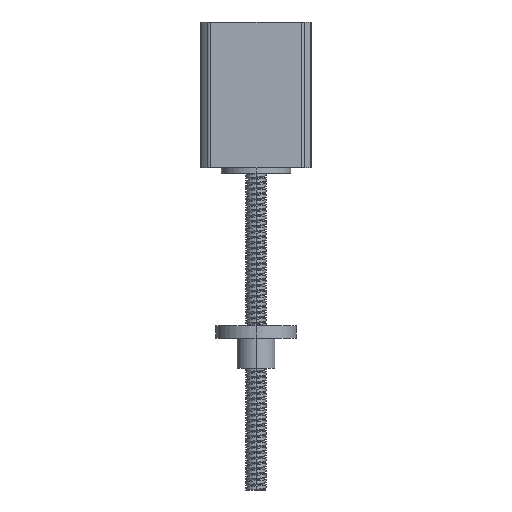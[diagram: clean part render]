
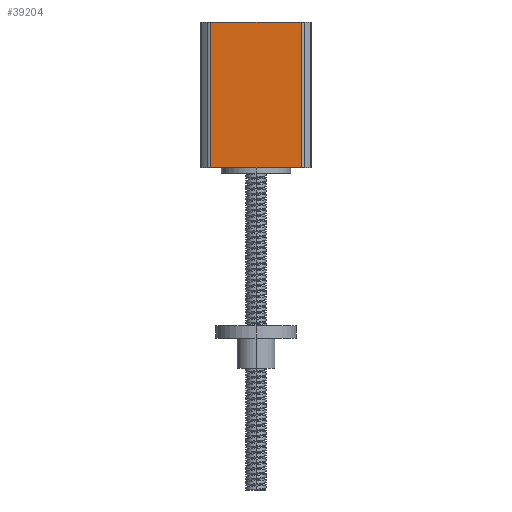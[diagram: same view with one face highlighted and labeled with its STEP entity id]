
A CAD part, left-side view. The second image highlights one B-rep face of the part: STEP entity #39204.
In plain terms, the highlighted planar face has unit normal (-1, 0, 0).
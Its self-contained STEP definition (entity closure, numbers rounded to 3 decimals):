
#21147 = PLANE('',#21148);
#21148 = AXIS2_PLACEMENT_3D('',#21149,#21150,#21151);
#21149 = CARTESIAN_POINT('',(0.,0.,47.8));
#21150 = DIRECTION('',(0.,0.,1.));
#21151 = DIRECTION('',(1.,0.,0.));
#22291 = PLANE('',#22292);
#22292 = AXIS2_PLACEMENT_3D('',#22293,#22294,#22295);
#22293 = CARTESIAN_POINT('',(0.,0.,1.8));
#22294 = DIRECTION('',(0.,0.,1.));
#22295 = DIRECTION('',(1.,0.,0.));
#37218 = VERTEX_POINT('',#37219);
#37219 = CARTESIAN_POINT('',(-17.5,-14.361,1.8));
#37234 = CYLINDRICAL_SURFACE('',#37235,1.5);
#37235 = AXIS2_PLACEMENT_3D('',#37236,#37237,#37238);
#37236 = CARTESIAN_POINT('',(-16.,-14.361,47.8));
#37237 = DIRECTION('',(0.,0.,-1.));
#37238 = DIRECTION('',(-1.,0.,0.));
#37268 = EDGE_CURVE('',#37269,#37218,#37271,.T.);
#37269 = VERTEX_POINT('',#37270);
#37270 = CARTESIAN_POINT('',(-17.5,14.361,1.8));
#37271 = SURFACE_CURVE('',#37272,(#37276,#37283),.PCURVE_S1.);
#37272 = LINE('',#37273,#37274);
#37273 = CARTESIAN_POINT('',(-17.5,14.361,1.8));
#37274 = VECTOR('',#37275,1.);
#37275 = DIRECTION('',(0.,-1.,0.));
#37276 = PCURVE('',#22291,#37277);
#37277 = DEFINITIONAL_REPRESENTATION('',(#37278),#37282);
#37278 = LINE('',#37279,#37280);
#37279 = CARTESIAN_POINT('',(-17.5,14.361));
#37280 = VECTOR('',#37281,1.);
#37281 = DIRECTION('',(0.,-1.));
#37282 = ( GEOMETRIC_REPRESENTATION_CONTEXT(2) 
PARAMETRIC_REPRESENTATION_CONTEXT() REPRESENTATION_CONTEXT('2D SPACE',''
  ) );
#37283 = PCURVE('',#37284,#37289);
#37284 = PLANE('',#37285);
#37285 = AXIS2_PLACEMENT_3D('',#37286,#37287,#37288);
#37286 = CARTESIAN_POINT('',(-17.5,14.361,47.8));
#37287 = DIRECTION('',(1.,0.,0.));
#37288 = DIRECTION('',(0.,1.,0.));
#37289 = DEFINITIONAL_REPRESENTATION('',(#37290),#37294);
#37290 = LINE('',#37291,#37292);
#37291 = CARTESIAN_POINT('',(0.,-46.));
#37292 = VECTOR('',#37293,1.);
#37293 = DIRECTION('',(-1.,0.));
#37294 = ( GEOMETRIC_REPRESENTATION_CONTEXT(2) 
PARAMETRIC_REPRESENTATION_CONTEXT() REPRESENTATION_CONTEXT('2D SPACE',''
  ) );
#37313 = CYLINDRICAL_SURFACE('',#37314,1.5);
#37314 = AXIS2_PLACEMENT_3D('',#37315,#37316,#37317);
#37315 = CARTESIAN_POINT('',(-16.,14.361,47.8));
#37316 = DIRECTION('',(0.,0.,-1.));
#37317 = DIRECTION('',(-1.,0.,0.));
#39115 = EDGE_CURVE('',#39116,#37269,#39118,.T.);
#39116 = VERTEX_POINT('',#39117);
#39117 = CARTESIAN_POINT('',(-17.5,14.361,47.8));
#39118 = SURFACE_CURVE('',#39119,(#39123,#39152),.PCURVE_S1.);
#39119 = LINE('',#39120,#39121);
#39120 = CARTESIAN_POINT('',(-17.5,14.361,47.8));
#39121 = VECTOR('',#39122,1.);
#39122 = DIRECTION('',(0.,0.,-1.));
#39123 = PCURVE('',#37313,#39124);
#39124 = DEFINITIONAL_REPRESENTATION('',(#39125),#39151);
#39125 = B_SPLINE_CURVE_WITH_KNOTS('',3,(#39126,#39127,#39128,#39129,
    #39130,#39131,#39132,#39133,#39134,#39135,#39136,#39137,#39138,
    #39139,#39140,#39141,#39142,#39143,#39144,#39145,#39146,#39147,
    #39148,#39149,#39150),.UNSPECIFIED.,.F.,.F.,(4,1,1,1,1,1,1,1,1,1,1,1
    ,1,1,1,1,1,1,1,1,1,1,4),(0.,2.091,4.182,
    6.273,8.364,10.455,12.545,
    14.636,16.727,18.818,20.909,23.,
    25.091,27.182,29.273,31.364,
    33.455,35.545,37.636,39.727,
    41.818,43.909,46.),.QUASI_UNIFORM_KNOTS.);
#39126 = CARTESIAN_POINT('',(0.,0.));
#39127 = CARTESIAN_POINT('',(0.,0.697));
#39128 = CARTESIAN_POINT('',(0.,2.091));
#39129 = CARTESIAN_POINT('',(0.,4.182));
#39130 = CARTESIAN_POINT('',(0.,6.273));
#39131 = CARTESIAN_POINT('',(0.,8.364));
#39132 = CARTESIAN_POINT('',(0.,10.455));
#39133 = CARTESIAN_POINT('',(0.,12.545));
#39134 = CARTESIAN_POINT('',(0.,14.636));
#39135 = CARTESIAN_POINT('',(0.,16.727));
#39136 = CARTESIAN_POINT('',(0.,18.818));
#39137 = CARTESIAN_POINT('',(0.,20.909));
#39138 = CARTESIAN_POINT('',(0.,23.));
#39139 = CARTESIAN_POINT('',(0.,25.091));
#39140 = CARTESIAN_POINT('',(0.,27.182));
#39141 = CARTESIAN_POINT('',(0.,29.273));
#39142 = CARTESIAN_POINT('',(0.,31.364));
#39143 = CARTESIAN_POINT('',(0.,33.455));
#39144 = CARTESIAN_POINT('',(0.,35.545));
#39145 = CARTESIAN_POINT('',(0.,37.636));
#39146 = CARTESIAN_POINT('',(0.,39.727));
#39147 = CARTESIAN_POINT('',(0.,41.818));
#39148 = CARTESIAN_POINT('',(0.,43.909));
#39149 = CARTESIAN_POINT('',(0.,45.303));
#39150 = CARTESIAN_POINT('',(0.,46.));
#39151 = ( GEOMETRIC_REPRESENTATION_CONTEXT(2) 
PARAMETRIC_REPRESENTATION_CONTEXT() REPRESENTATION_CONTEXT('2D SPACE',''
  ) );
#39152 = PCURVE('',#37284,#39153);
#39153 = DEFINITIONAL_REPRESENTATION('',(#39154),#39158);
#39154 = LINE('',#39155,#39156);
#39155 = CARTESIAN_POINT('',(0.,0.));
#39156 = VECTOR('',#39157,1.);
#39157 = DIRECTION('',(0.,-1.));
#39158 = ( GEOMETRIC_REPRESENTATION_CONTEXT(2) 
PARAMETRIC_REPRESENTATION_CONTEXT() REPRESENTATION_CONTEXT('2D SPACE',''
  ) );
#39204 = ADVANCED_FACE('',(#39205),#37284,.F.);
#39205 = FACE_BOUND('',#39206,.T.);
#39206 = EDGE_LOOP('',(#39207,#39208,#39253,#39274));
#39207 = ORIENTED_EDGE('',*,*,#37268,.T.);
#39208 = ORIENTED_EDGE('',*,*,#39209,.F.);
#39209 = EDGE_CURVE('',#39210,#37218,#39212,.T.);
#39210 = VERTEX_POINT('',#39211);
#39211 = CARTESIAN_POINT('',(-17.5,-14.361,47.8));
#39212 = SURFACE_CURVE('',#39213,(#39217,#39224),.PCURVE_S1.);
#39213 = LINE('',#39214,#39215);
#39214 = CARTESIAN_POINT('',(-17.5,-14.361,47.8));
#39215 = VECTOR('',#39216,1.);
#39216 = DIRECTION('',(0.,0.,-1.));
#39217 = PCURVE('',#37284,#39218);
#39218 = DEFINITIONAL_REPRESENTATION('',(#39219),#39223);
#39219 = LINE('',#39220,#39221);
#39220 = CARTESIAN_POINT('',(-28.723,0.));
#39221 = VECTOR('',#39222,1.);
#39222 = DIRECTION('',(0.,-1.));
#39223 = ( GEOMETRIC_REPRESENTATION_CONTEXT(2) 
PARAMETRIC_REPRESENTATION_CONTEXT() REPRESENTATION_CONTEXT('2D SPACE',''
  ) );
#39224 = PCURVE('',#37234,#39225);
#39225 = DEFINITIONAL_REPRESENTATION('',(#39226),#39252);
#39226 = B_SPLINE_CURVE_WITH_KNOTS('',3,(#39227,#39228,#39229,#39230,
    #39231,#39232,#39233,#39234,#39235,#39236,#39237,#39238,#39239,
    #39240,#39241,#39242,#39243,#39244,#39245,#39246,#39247,#39248,
    #39249,#39250,#39251),.UNSPECIFIED.,.F.,.F.,(4,1,1,1,1,1,1,1,1,1,1,1
    ,1,1,1,1,1,1,1,1,1,1,4),(0.,2.091,4.182,
    6.273,8.364,10.455,12.545,
    14.636,16.727,18.818,20.909,23.,
    25.091,27.182,29.273,31.364,
    33.455,35.545,37.636,39.727,
    41.818,43.909,46.),.QUASI_UNIFORM_KNOTS.);
#39227 = CARTESIAN_POINT('',(6.283,0.));
#39228 = CARTESIAN_POINT('',(6.283,0.697));
#39229 = CARTESIAN_POINT('',(6.283,2.091));
#39230 = CARTESIAN_POINT('',(6.283,4.182));
#39231 = CARTESIAN_POINT('',(6.283,6.273));
#39232 = CARTESIAN_POINT('',(6.283,8.364));
#39233 = CARTESIAN_POINT('',(6.283,10.455));
#39234 = CARTESIAN_POINT('',(6.283,12.545));
#39235 = CARTESIAN_POINT('',(6.283,14.636));
#39236 = CARTESIAN_POINT('',(6.283,16.727));
#39237 = CARTESIAN_POINT('',(6.283,18.818));
#39238 = CARTESIAN_POINT('',(6.283,20.909));
#39239 = CARTESIAN_POINT('',(6.283,23.));
#39240 = CARTESIAN_POINT('',(6.283,25.091));
#39241 = CARTESIAN_POINT('',(6.283,27.182));
#39242 = CARTESIAN_POINT('',(6.283,29.273));
#39243 = CARTESIAN_POINT('',(6.283,31.364));
#39244 = CARTESIAN_POINT('',(6.283,33.455));
#39245 = CARTESIAN_POINT('',(6.283,35.545));
#39246 = CARTESIAN_POINT('',(6.283,37.636));
#39247 = CARTESIAN_POINT('',(6.283,39.727));
#39248 = CARTESIAN_POINT('',(6.283,41.818));
#39249 = CARTESIAN_POINT('',(6.283,43.909));
#39250 = CARTESIAN_POINT('',(6.283,45.303));
#39251 = CARTESIAN_POINT('',(6.283,46.));
#39252 = ( GEOMETRIC_REPRESENTATION_CONTEXT(2) 
PARAMETRIC_REPRESENTATION_CONTEXT() REPRESENTATION_CONTEXT('2D SPACE',''
  ) );
#39253 = ORIENTED_EDGE('',*,*,#39254,.F.);
#39254 = EDGE_CURVE('',#39116,#39210,#39255,.T.);
#39255 = SURFACE_CURVE('',#39256,(#39260,#39267),.PCURVE_S1.);
#39256 = LINE('',#39257,#39258);
#39257 = CARTESIAN_POINT('',(-17.5,14.361,47.8));
#39258 = VECTOR('',#39259,1.);
#39259 = DIRECTION('',(0.,-1.,0.));
#39260 = PCURVE('',#37284,#39261);
#39261 = DEFINITIONAL_REPRESENTATION('',(#39262),#39266);
#39262 = LINE('',#39263,#39264);
#39263 = CARTESIAN_POINT('',(0.,0.));
#39264 = VECTOR('',#39265,1.);
#39265 = DIRECTION('',(-1.,0.));
#39266 = ( GEOMETRIC_REPRESENTATION_CONTEXT(2) 
PARAMETRIC_REPRESENTATION_CONTEXT() REPRESENTATION_CONTEXT('2D SPACE',''
  ) );
#39267 = PCURVE('',#21147,#39268);
#39268 = DEFINITIONAL_REPRESENTATION('',(#39269),#39273);
#39269 = LINE('',#39270,#39271);
#39270 = CARTESIAN_POINT('',(-17.5,14.361));
#39271 = VECTOR('',#39272,1.);
#39272 = DIRECTION('',(0.,-1.));
#39273 = ( GEOMETRIC_REPRESENTATION_CONTEXT(2) 
PARAMETRIC_REPRESENTATION_CONTEXT() REPRESENTATION_CONTEXT('2D SPACE',''
  ) );
#39274 = ORIENTED_EDGE('',*,*,#39115,.T.);
